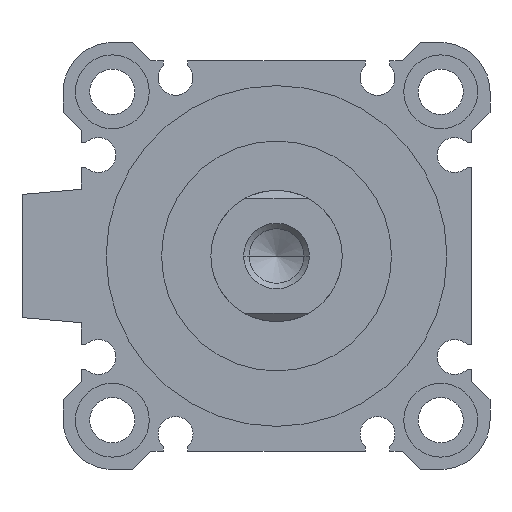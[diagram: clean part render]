
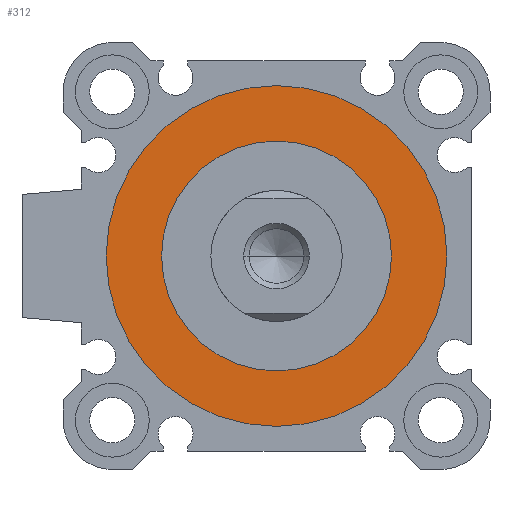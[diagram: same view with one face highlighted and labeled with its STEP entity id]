
A CAD part, left-side view. The second image highlights one B-rep face of the part: STEP entity #312.
In plain terms, the highlighted planar face has unit normal (-1, 0, 0).
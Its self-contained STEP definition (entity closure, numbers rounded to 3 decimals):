
#109 = AXIS2_PLACEMENT_3D ( 'NONE', #295, #3779, #675 ) ;
#148 = CARTESIAN_POINT ( 'NONE',  ( 3.3, 0., -20.75 ) ) ;
#164 = EDGE_CURVE ( 'NONE', #3596, #3330, #3976, .T. ) ;
#295 = CARTESIAN_POINT ( 'NONE',  ( 3.3, 0., 0. ) ) ;
#312 = ADVANCED_FACE ( 'NONE', ( #1060, #4086 ), #1824, .F. ) ;
#325 = ORIENTED_EDGE ( 'NONE', *, *, #1450, .T. ) ;
#340 = EDGE_LOOP ( 'NONE', ( #3563, #325 ) ) ;
#571 = AXIS2_PLACEMENT_3D ( 'NONE', #687, #737, #1915 ) ;
#675 = DIRECTION ( 'NONE',  ( 0., 1., 0. ) ) ;
#687 = CARTESIAN_POINT ( 'NONE',  ( 3.3, 0., 0. ) ) ;
#737 = DIRECTION ( 'NONE',  ( 1., 0., 0. ) ) ;
#883 = CIRCLE ( 'NONE', #3721, 14. ) ;
#955 = CARTESIAN_POINT ( 'NONE',  ( 3.3, 0., 0. ) ) ;
#1060 = FACE_OUTER_BOUND ( 'NONE', #4580, .T. ) ;
#1111 = CARTESIAN_POINT ( 'NONE',  ( 3.3, 0., 20.75 ) ) ;
#1351 = VERTEX_POINT ( 'NONE', #1657 ) ;
#1379 = AXIS2_PLACEMENT_3D ( 'NONE', #3351, #4803, #3711 ) ;
#1450 = EDGE_CURVE ( 'NONE', #1351, #2682, #883, .T. ) ;
#1555 = ORIENTED_EDGE ( 'NONE', *, *, #164, .F. ) ;
#1657 = CARTESIAN_POINT ( 'NONE',  ( 3.3, 0., -14. ) ) ;
#1732 = CARTESIAN_POINT ( 'NONE',  ( 3.3, 0., 0. ) ) ;
#1788 = CIRCLE ( 'NONE', #571, 20.75 ) ;
#1824 = PLANE ( 'NONE',  #109 ) ;
#1915 = DIRECTION ( 'NONE',  ( 0., 0., -1. ) ) ;
#1966 = ORIENTED_EDGE ( 'NONE', *, *, #2085, .F. ) ;
#2085 = EDGE_CURVE ( 'NONE', #3330, #3596, #1788, .T. ) ;
#2498 = DIRECTION ( 'NONE',  ( 1., 0., 0. ) ) ;
#2682 = VERTEX_POINT ( 'NONE', #3820 ) ;
#3330 = VERTEX_POINT ( 'NONE', #1111 ) ;
#3351 = CARTESIAN_POINT ( 'NONE',  ( 3.3, 0., 0. ) ) ;
#3563 = ORIENTED_EDGE ( 'NONE', *, *, #4905, .T. ) ;
#3596 = VERTEX_POINT ( 'NONE', #148 ) ;
#3601 = AXIS2_PLACEMENT_3D ( 'NONE', #955, #4869, #4107 ) ;
#3711 = DIRECTION ( 'NONE',  ( 0., 0., -1. ) ) ;
#3721 = AXIS2_PLACEMENT_3D ( 'NONE', #1732, #2498, #4592 ) ;
#3779 = DIRECTION ( 'NONE',  ( 1., 0., 0. ) ) ;
#3820 = CARTESIAN_POINT ( 'NONE',  ( 3.3, 0., 14. ) ) ;
#3976 = CIRCLE ( 'NONE', #1379, 20.75 ) ;
#4086 = FACE_BOUND ( 'NONE', #340, .T. ) ;
#4107 = DIRECTION ( 'NONE',  ( 0., 0., -1. ) ) ;
#4249 = CIRCLE ( 'NONE', #3601, 14. ) ;
#4580 = EDGE_LOOP ( 'NONE', ( #1966, #1555 ) ) ;
#4592 = DIRECTION ( 'NONE',  ( 0., 0., -1. ) ) ;
#4803 = DIRECTION ( 'NONE',  ( 1., 0., 0. ) ) ;
#4869 = DIRECTION ( 'NONE',  ( 1., 0., 0. ) ) ;
#4905 = EDGE_CURVE ( 'NONE', #2682, #1351, #4249, .T. ) ;
